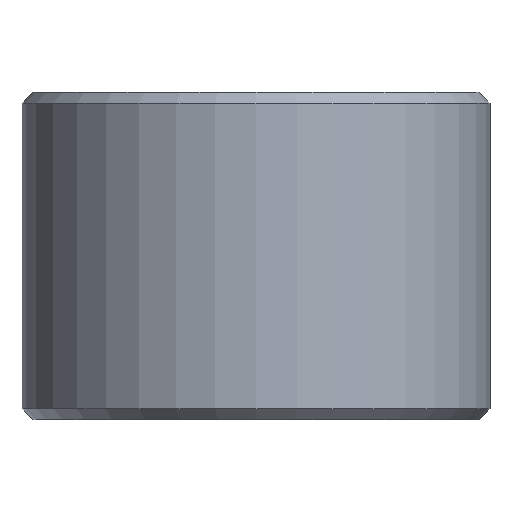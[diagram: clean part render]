
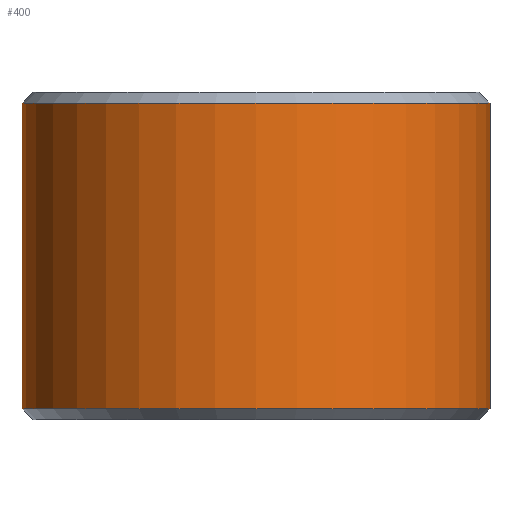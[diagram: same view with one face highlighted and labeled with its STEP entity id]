
A CAD part, front view. The second image highlights one B-rep face of the part: STEP entity #400.
In plain terms, the highlighted cylindrical face has radius 15 mm (diameter 30 mm), a partial arc.
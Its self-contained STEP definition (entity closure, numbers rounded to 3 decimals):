
#3 = DIRECTION ( 'NONE',  ( 1., 0., 0. ) ) ;
#15 = ORIENTED_EDGE ( 'NONE', *, *, #424, .T. ) ;
#18 = DIRECTION ( 'NONE',  ( -1., 0., 0. ) ) ;
#24 = CYLINDRICAL_SURFACE ( 'NONE', #241, 15. ) ;
#33 = ORIENTED_EDGE ( 'NONE', *, *, #110, .T. ) ;
#51 = VERTEX_POINT ( 'NONE', #405 ) ;
#54 = CARTESIAN_POINT ( 'NONE',  ( 0., 0., 10.5 ) ) ;
#59 = EDGE_LOOP ( 'NONE', ( #370, #33, #15, #133 ) ) ;
#73 = DIRECTION ( 'NONE',  ( 0., 0., 1. ) ) ;
#76 = CIRCLE ( 'NONE', #423, 15. ) ;
#80 = CARTESIAN_POINT ( 'NONE',  ( -15., 0., 10.5 ) ) ;
#101 = DIRECTION ( 'NONE',  ( 0., 0., -1. ) ) ;
#107 = CARTESIAN_POINT ( 'NONE',  ( 15., 0., 9.8 ) ) ;
#110 = EDGE_CURVE ( 'NONE', #257, #328, #145, .T. ) ;
#115 = EDGE_CURVE ( 'NONE', #257, #51, #194, .T. ) ;
#133 = ORIENTED_EDGE ( 'NONE', *, *, #256, .T. ) ;
#145 = CIRCLE ( 'NONE', #163, 15. ) ;
#163 = AXIS2_PLACEMENT_3D ( 'NONE', #205, #275, #407 ) ;
#181 = VECTOR ( 'NONE', #363, 1000. ) ;
#194 = LINE ( 'NONE', #204, #448 ) ;
#204 = CARTESIAN_POINT ( 'NONE',  ( 15., 0., 10.5 ) ) ;
#205 = CARTESIAN_POINT ( 'NONE',  ( 0., 0., 9.8 ) ) ;
#241 = AXIS2_PLACEMENT_3D ( 'NONE', #54, #266, #18 ) ;
#255 = FACE_OUTER_BOUND ( 'NONE', #59, .T. ) ;
#256 = EDGE_CURVE ( 'NONE', #263, #51, #76, .T. ) ;
#257 = VERTEX_POINT ( 'NONE', #107 ) ;
#263 = VERTEX_POINT ( 'NONE', #283 ) ;
#266 = DIRECTION ( 'NONE',  ( 0., 0., -1. ) ) ;
#275 = DIRECTION ( 'NONE',  ( 0., 0., -1. ) ) ;
#283 = CARTESIAN_POINT ( 'NONE',  ( -15., 0., -9.8 ) ) ;
#322 = CARTESIAN_POINT ( 'NONE',  ( 0., 0., -9.8 ) ) ;
#325 = LINE ( 'NONE', #80, #181 ) ;
#328 = VERTEX_POINT ( 'NONE', #351 ) ;
#351 = CARTESIAN_POINT ( 'NONE',  ( -15., 0., 9.8 ) ) ;
#363 = DIRECTION ( 'NONE',  ( 0., 0., -1. ) ) ;
#370 = ORIENTED_EDGE ( 'NONE', *, *, #115, .F. ) ;
#400 = ADVANCED_FACE ( 'NONE', ( #255 ), #24, .T. ) ;
#405 = CARTESIAN_POINT ( 'NONE',  ( 15., 0., -9.8 ) ) ;
#407 = DIRECTION ( 'NONE',  ( 1., 0., 0. ) ) ;
#423 = AXIS2_PLACEMENT_3D ( 'NONE', #322, #73, #3 ) ;
#424 = EDGE_CURVE ( 'NONE', #328, #263, #325, .T. ) ;
#448 = VECTOR ( 'NONE', #101, 1000. ) ;
